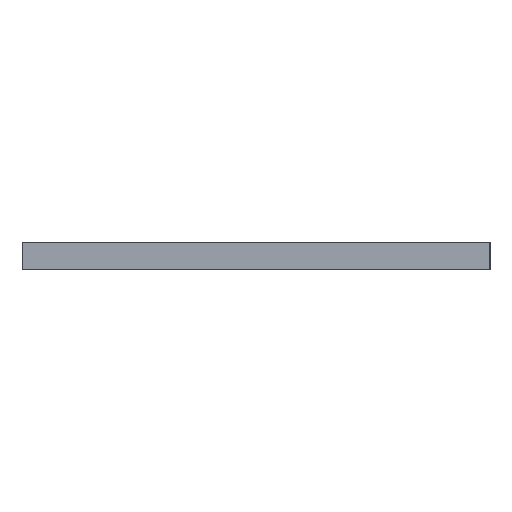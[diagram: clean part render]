
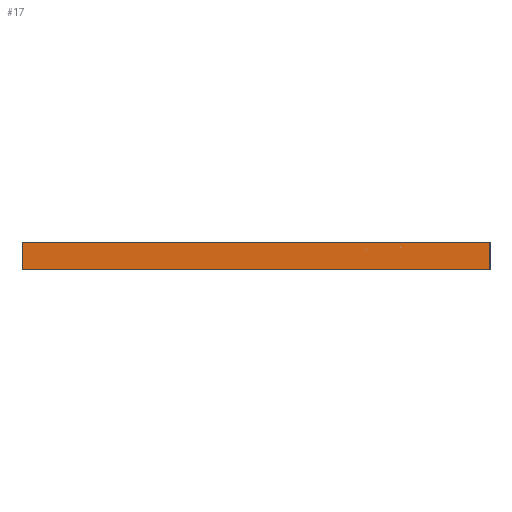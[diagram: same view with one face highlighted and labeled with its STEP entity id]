
A CAD part, left-side view. The second image highlights one B-rep face of the part: STEP entity #17.
In plain terms, the highlighted planar face has unit normal (-1, 0, 0).
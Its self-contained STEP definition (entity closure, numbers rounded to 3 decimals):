
#17 = ADVANCED_FACE('',(#18),#32,.F.);
#18 = FACE_BOUND('',#19,.F.);
#19 = EDGE_LOOP('',(#20,#55,#83,#111));
#20 = ORIENTED_EDGE('',*,*,#21,.F.);
#21 = EDGE_CURVE('',#22,#24,#26,.T.);
#22 = VERTEX_POINT('',#23);
#23 = CARTESIAN_POINT('',(0.,0.,0.));
#24 = VERTEX_POINT('',#25);
#25 = CARTESIAN_POINT('',(0.,0.,3.));
#26 = SURFACE_CURVE('',#27,(#31,#43),.PCURVE_S1.);
#27 = LINE('',#28,#29);
#28 = CARTESIAN_POINT('',(0.,0.,0.));
#29 = VECTOR('',#30,1.);
#30 = DIRECTION('',(0.,0.,1.));
#31 = PCURVE('',#32,#37);
#32 = PLANE('',#33);
#33 = AXIS2_PLACEMENT_3D('',#34,#35,#36);
#34 = CARTESIAN_POINT('',(0.,0.,0.));
#35 = DIRECTION('',(1.,0.,-0.));
#36 = DIRECTION('',(0.,0.,1.));
#37 = DEFINITIONAL_REPRESENTATION('',(#38),#42);
#38 = LINE('',#39,#40);
#39 = CARTESIAN_POINT('',(0.,0.));
#40 = VECTOR('',#41,1.);
#41 = DIRECTION('',(1.,0.));
#42 = ( GEOMETRIC_REPRESENTATION_CONTEXT(2) 
PARAMETRIC_REPRESENTATION_CONTEXT() REPRESENTATION_CONTEXT('2D SPACE',''
  ) );
#43 = PCURVE('',#44,#49);
#44 = PLANE('',#45);
#45 = AXIS2_PLACEMENT_3D('',#46,#47,#48);
#46 = CARTESIAN_POINT('',(0.,0.,0.));
#47 = DIRECTION('',(-0.,1.,0.));
#48 = DIRECTION('',(0.,0.,1.));
#49 = DEFINITIONAL_REPRESENTATION('',(#50),#54);
#50 = LINE('',#51,#52);
#51 = CARTESIAN_POINT('',(0.,0.));
#52 = VECTOR('',#53,1.);
#53 = DIRECTION('',(1.,0.));
#54 = ( GEOMETRIC_REPRESENTATION_CONTEXT(2) 
PARAMETRIC_REPRESENTATION_CONTEXT() REPRESENTATION_CONTEXT('2D SPACE',''
  ) );
#55 = ORIENTED_EDGE('',*,*,#56,.T.);
#56 = EDGE_CURVE('',#22,#57,#59,.T.);
#57 = VERTEX_POINT('',#58);
#58 = CARTESIAN_POINT('',(0.,51.,0.));
#59 = SURFACE_CURVE('',#60,(#64,#71),.PCURVE_S1.);
#60 = LINE('',#61,#62);
#61 = CARTESIAN_POINT('',(0.,0.,0.));
#62 = VECTOR('',#63,1.);
#63 = DIRECTION('',(-0.,1.,0.));
#64 = PCURVE('',#32,#65);
#65 = DEFINITIONAL_REPRESENTATION('',(#66),#70);
#66 = LINE('',#67,#68);
#67 = CARTESIAN_POINT('',(0.,0.));
#68 = VECTOR('',#69,1.);
#69 = DIRECTION('',(0.,-1.));
#70 = ( GEOMETRIC_REPRESENTATION_CONTEXT(2) 
PARAMETRIC_REPRESENTATION_CONTEXT() REPRESENTATION_CONTEXT('2D SPACE',''
  ) );
#71 = PCURVE('',#72,#77);
#72 = PLANE('',#73);
#73 = AXIS2_PLACEMENT_3D('',#74,#75,#76);
#74 = CARTESIAN_POINT('',(0.,0.,0.));
#75 = DIRECTION('',(0.,0.,1.));
#76 = DIRECTION('',(1.,0.,-0.));
#77 = DEFINITIONAL_REPRESENTATION('',(#78),#82);
#78 = LINE('',#79,#80);
#79 = CARTESIAN_POINT('',(0.,0.));
#80 = VECTOR('',#81,1.);
#81 = DIRECTION('',(0.,1.));
#82 = ( GEOMETRIC_REPRESENTATION_CONTEXT(2) 
PARAMETRIC_REPRESENTATION_CONTEXT() REPRESENTATION_CONTEXT('2D SPACE',''
  ) );
#83 = ORIENTED_EDGE('',*,*,#84,.T.);
#84 = EDGE_CURVE('',#57,#85,#87,.T.);
#85 = VERTEX_POINT('',#86);
#86 = CARTESIAN_POINT('',(0.,51.,3.));
#87 = SURFACE_CURVE('',#88,(#92,#99),.PCURVE_S1.);
#88 = LINE('',#89,#90);
#89 = CARTESIAN_POINT('',(0.,51.,0.));
#90 = VECTOR('',#91,1.);
#91 = DIRECTION('',(0.,0.,1.));
#92 = PCURVE('',#32,#93);
#93 = DEFINITIONAL_REPRESENTATION('',(#94),#98);
#94 = LINE('',#95,#96);
#95 = CARTESIAN_POINT('',(0.,-51.));
#96 = VECTOR('',#97,1.);
#97 = DIRECTION('',(1.,0.));
#98 = ( GEOMETRIC_REPRESENTATION_CONTEXT(2) 
PARAMETRIC_REPRESENTATION_CONTEXT() REPRESENTATION_CONTEXT('2D SPACE',''
  ) );
#99 = PCURVE('',#100,#105);
#100 = PLANE('',#101);
#101 = AXIS2_PLACEMENT_3D('',#102,#103,#104);
#102 = CARTESIAN_POINT('',(0.,51.,0.));
#103 = DIRECTION('',(-0.,1.,0.));
#104 = DIRECTION('',(0.,0.,1.));
#105 = DEFINITIONAL_REPRESENTATION('',(#106),#110);
#106 = LINE('',#107,#108);
#107 = CARTESIAN_POINT('',(0.,0.));
#108 = VECTOR('',#109,1.);
#109 = DIRECTION('',(1.,0.));
#110 = ( GEOMETRIC_REPRESENTATION_CONTEXT(2) 
PARAMETRIC_REPRESENTATION_CONTEXT() REPRESENTATION_CONTEXT('2D SPACE',''
  ) );
#111 = ORIENTED_EDGE('',*,*,#112,.F.);
#112 = EDGE_CURVE('',#24,#85,#113,.T.);
#113 = SURFACE_CURVE('',#114,(#118,#125),.PCURVE_S1.);
#114 = LINE('',#115,#116);
#115 = CARTESIAN_POINT('',(0.,0.,3.));
#116 = VECTOR('',#117,1.);
#117 = DIRECTION('',(-0.,1.,0.));
#118 = PCURVE('',#32,#119);
#119 = DEFINITIONAL_REPRESENTATION('',(#120),#124);
#120 = LINE('',#121,#122);
#121 = CARTESIAN_POINT('',(3.,0.));
#122 = VECTOR('',#123,1.);
#123 = DIRECTION('',(0.,-1.));
#124 = ( GEOMETRIC_REPRESENTATION_CONTEXT(2) 
PARAMETRIC_REPRESENTATION_CONTEXT() REPRESENTATION_CONTEXT('2D SPACE',''
  ) );
#125 = PCURVE('',#126,#131);
#126 = PLANE('',#127);
#127 = AXIS2_PLACEMENT_3D('',#128,#129,#130);
#128 = CARTESIAN_POINT('',(0.,0.,3.));
#129 = DIRECTION('',(0.,0.,1.));
#130 = DIRECTION('',(1.,0.,-0.));
#131 = DEFINITIONAL_REPRESENTATION('',(#132),#136);
#132 = LINE('',#133,#134);
#133 = CARTESIAN_POINT('',(0.,0.));
#134 = VECTOR('',#135,1.);
#135 = DIRECTION('',(0.,1.));
#136 = ( GEOMETRIC_REPRESENTATION_CONTEXT(2) 
PARAMETRIC_REPRESENTATION_CONTEXT() REPRESENTATION_CONTEXT('2D SPACE',''
  ) );
